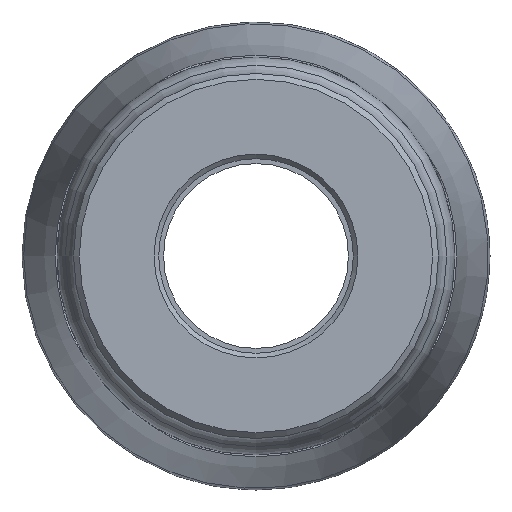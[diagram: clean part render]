
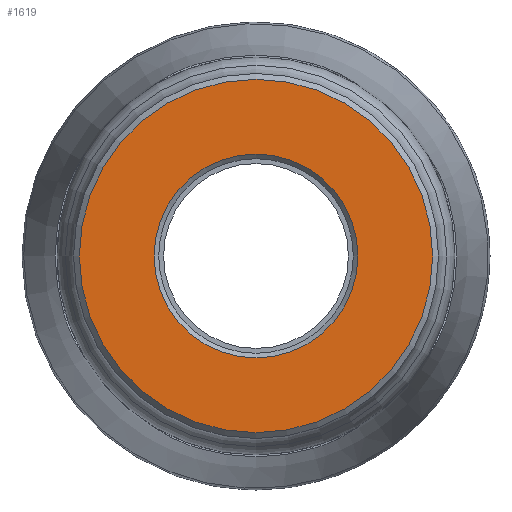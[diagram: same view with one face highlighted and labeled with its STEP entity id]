
A CAD part, left-side view. The second image highlights one B-rep face of the part: STEP entity #1619.
In plain terms, the highlighted planar face has unit normal (-1, 0, 0).
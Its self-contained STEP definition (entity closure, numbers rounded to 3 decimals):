
#29=FACE_BOUND('',#401,.T.);
#212=PLANE('',#1776);
#290=FACE_OUTER_BOUND('',#400,.T.);
#400=EDGE_LOOP('',(#1219));
#401=EDGE_LOOP('',(#1220));
#542=CIRCLE('',#1775,12.639);
#543=CIRCLE('',#1777,21.896);
#728=VERTEX_POINT('',#2878);
#729=VERTEX_POINT('',#2881);
#910=EDGE_CURVE('',#728,#728,#542,.T.);
#911=EDGE_CURVE('',#729,#729,#543,.T.);
#1219=ORIENTED_EDGE('',*,*,#911,.F.);
#1220=ORIENTED_EDGE('',*,*,#910,.F.);
#1619=ADVANCED_FACE('',(#290,#29),#212,.T.);
#1775=AXIS2_PLACEMENT_3D('',#2879,#2067,#2068);
#1776=AXIS2_PLACEMENT_3D('',#2880,#2069,#2070);
#1777=AXIS2_PLACEMENT_3D('',#2882,#2071,#2072);
#2067=DIRECTION('center_axis',(-1.,0.,0.));
#2068=DIRECTION('ref_axis',(0.,-1.,0.));
#2069=DIRECTION('center_axis',(-1.,0.,0.));
#2070=DIRECTION('ref_axis',(0.,0.,1.));
#2071=DIRECTION('center_axis',(1.,0.,0.));
#2072=DIRECTION('ref_axis',(0.,-1.,0.));
#2878=CARTESIAN_POINT('',(0.,12.639,0.));
#2879=CARTESIAN_POINT('Origin',(0.,0.,0.));
#2880=CARTESIAN_POINT('Origin',(0.,22.62,0.));
#2881=CARTESIAN_POINT('',(0.,21.896,0.));
#2882=CARTESIAN_POINT('Origin',(0.,0.,0.));
